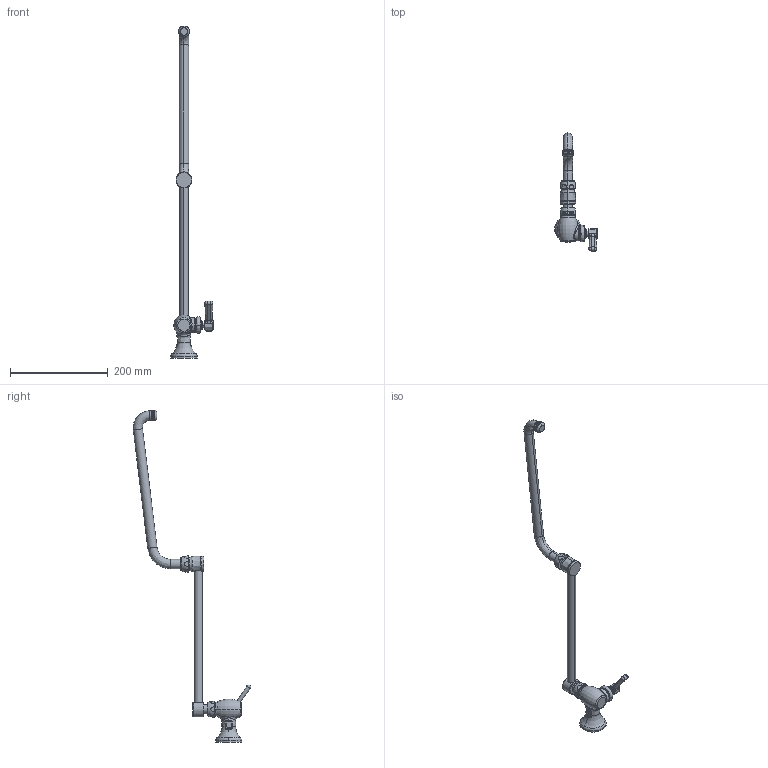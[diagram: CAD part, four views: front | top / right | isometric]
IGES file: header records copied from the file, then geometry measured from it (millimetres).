
Start section:  PTC IGES file: 332-dj24abcp_sw0001.igs
Global section: file name: 332-dj24abcp_sw0001.igs; native system: Creo Parametric by Parametric Technology Corporation; preprocessor: 2012230; author: jrodriguez; organization: Unknown; date: 20121113.111544; units: inch
Bounding box: 87.14 x 241.31 x 680.97 mm (x, y, z)
Surface area: 76595.2 mm2 (no closed solid volume)
Topology: 0 solids, 0 shells, 341 faces, 2066 edges, 2062 vertices
Faces by surface type: revolution 199, bspline 142
